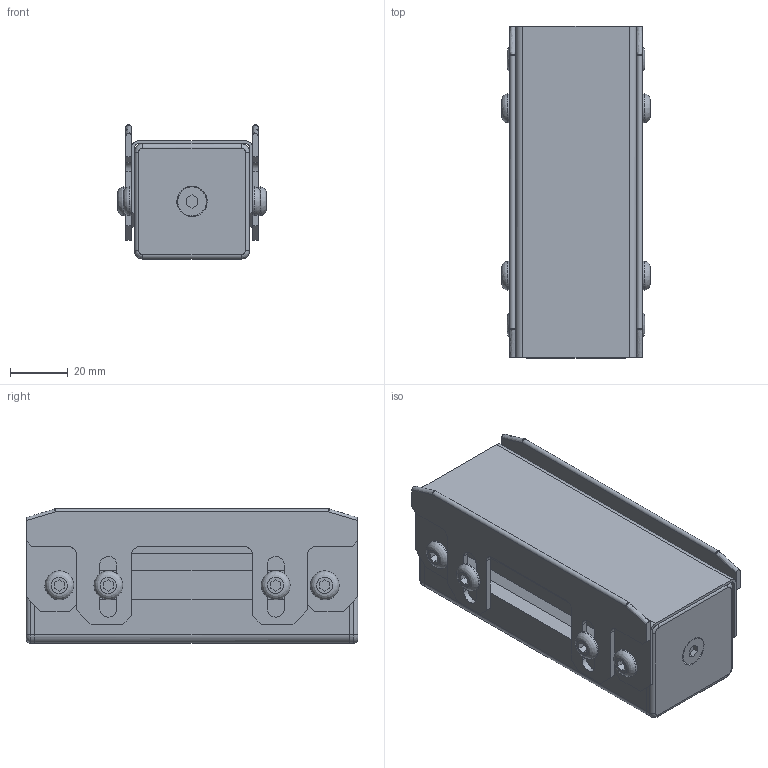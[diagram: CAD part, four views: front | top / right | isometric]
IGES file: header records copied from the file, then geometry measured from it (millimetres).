
Global section: file name: MGSS-FA-4040x115H; native system: unknown; preprocessor: unknown; author: unknown; organization: unknown; date: 20221215.125005; units: millimetre
Bounding box: 51.6 x 115 x 46.5 mm (x, y, z)
Volume: 97816.2 mm3; surface area: 88065 mm2
Topology: 16 solids, 16 shells, 352 faces, 936 edges, 618 vertices
Faces by surface type: bspline 352
